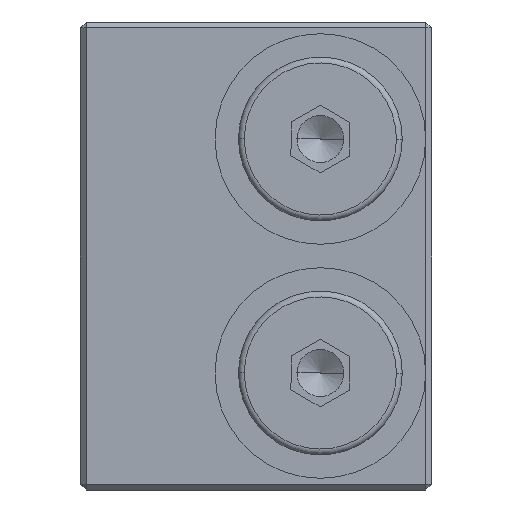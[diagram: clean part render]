
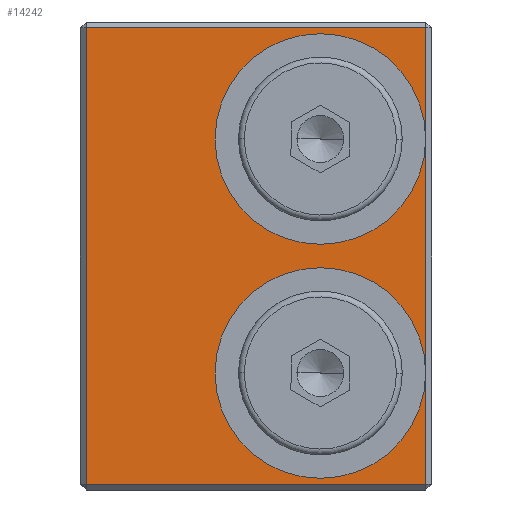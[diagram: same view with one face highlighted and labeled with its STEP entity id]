
A CAD part, left-side view. The second image highlights one B-rep face of the part: STEP entity #14242.
In plain terms, the highlighted planar face has unit normal (-1, 0, 0).
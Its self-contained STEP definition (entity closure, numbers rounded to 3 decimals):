
#136 = CARTESIAN_POINT ( 'NONE',  ( 0., 14.5, -20. ) ) ;
#141 = DIRECTION ( 'NONE',  ( 0., 0., 1. ) ) ;
#190 = EDGE_CURVE ( 'NONE', #6615, #11291, #15655, .T. ) ;
#248 = EDGE_CURVE ( 'NONE', #5211, #3047, #2602, .T. ) ;
#361 = ORIENTED_EDGE ( 'NONE', *, *, #1681, .T. ) ;
#441 = VECTOR ( 'NONE', #8411, 1000. ) ;
#766 = EDGE_LOOP ( 'NONE', ( #3019, #15106, #15193, #12174, #1526, #10283, #4860, #361, #8082, #13542, #15364, #10698 ) ) ;
#907 = DIRECTION ( 'NONE',  ( 0., 1., 0. ) ) ;
#1141 = CARTESIAN_POINT ( 'NONE',  ( 0., -14.5, -19.5 ) ) ;
#1231 = DIRECTION ( 'NONE',  ( 0., 0., 1. ) ) ;
#1496 = VECTOR ( 'NONE', #14580, 1000. ) ;
#1526 = ORIENTED_EDGE ( 'NONE', *, *, #190, .F. ) ;
#1659 = CIRCLE ( 'NONE', #7832, 9. ) ;
#1681 = EDGE_CURVE ( 'NONE', #12000, #14554, #8696, .T. ) ;
#2004 = VECTOR ( 'NONE', #15140, 1000. ) ;
#2234 = CARTESIAN_POINT ( 'NONE',  ( 0., 15., 19.5 ) ) ;
#2323 = CIRCLE ( 'NONE', #15767, 9. ) ;
#2332 = CARTESIAN_POINT ( 'NONE',  ( 0., -15., -19.5 ) ) ;
#2351 = EDGE_CURVE ( 'NONE', #3047, #10838, #6232, .T. ) ;
#2376 = VERTEX_POINT ( 'NONE', #1141 ) ;
#2483 = EDGE_CURVE ( 'NONE', #10838, #6615, #8185, .T. ) ;
#2602 = CIRCLE ( 'NONE', #8772, 9. ) ;
#2625 = CARTESIAN_POINT ( 'NONE',  ( 0., -14.5, 19.5 ) ) ;
#3019 = ORIENTED_EDGE ( 'NONE', *, *, #4492, .F. ) ;
#3047 = VERTEX_POINT ( 'NONE', #7014 ) ;
#3281 = LINE ( 'NONE', #2332, #12908 ) ;
#3817 = EDGE_CURVE ( 'NONE', #5189, #6615, #1659, .T. ) ;
#4391 = EDGE_CURVE ( 'NONE', #11291, #5189, #2323, .T. ) ;
#4492 = EDGE_CURVE ( 'NONE', #10838, #5211, #14859, .T. ) ;
#4548 = DIRECTION ( 'NONE',  ( -1., 0., 0. ) ) ;
#4755 = DIRECTION ( 'NONE',  ( -1., 0., 0. ) ) ;
#4860 = ORIENTED_EDGE ( 'NONE', *, *, #16068, .T. ) ;
#4899 = DIRECTION ( 'NONE',  ( 0., 0., 1. ) ) ;
#5189 = VERTEX_POINT ( 'NONE', #7089 ) ;
#5211 = VERTEX_POINT ( 'NONE', #15906 ) ;
#6053 = CARTESIAN_POINT ( 'NONE',  ( 0., -5.5, 10. ) ) ;
#6167 = CARTESIAN_POINT ( 'NONE',  ( 0., -5.5, -10. ) ) ;
#6232 = CIRCLE ( 'NONE', #10639, 9. ) ;
#6440 = CARTESIAN_POINT ( 'NONE',  ( 0., -14.5, 10. ) ) ;
#6521 = DIRECTION ( 'NONE',  ( -1., 0., 0. ) ) ;
#6615 = VERTEX_POINT ( 'NONE', #6440 ) ;
#7014 = CARTESIAN_POINT ( 'NONE',  ( 0., -5.5, -19. ) ) ;
#7089 = CARTESIAN_POINT ( 'NONE',  ( 0., -5.5, 1. ) ) ;
#7204 = DIRECTION ( 'NONE',  ( 0., 0., 1. ) ) ;
#7481 = LINE ( 'NONE', #2234, #14118 ) ;
#7513 = CARTESIAN_POINT ( 'NONE',  ( 0., 14.5, 19.5 ) ) ;
#7676 = DIRECTION ( 'NONE',  ( -1., 0., 0. ) ) ;
#7817 = EDGE_CURVE ( 'NONE', #14554, #2376, #3281, .T. ) ;
#7832 = AXIS2_PLACEMENT_3D ( 'NONE', #14002, #6521, #15265 ) ;
#8082 = ORIENTED_EDGE ( 'NONE', *, *, #7817, .T. ) ;
#8185 = LINE ( 'NONE', #14692, #1496 ) ;
#8411 = DIRECTION ( 'NONE',  ( 0., 0., 1. ) ) ;
#8696 = LINE ( 'NONE', #136, #2004 ) ;
#8772 = AXIS2_PLACEMENT_3D ( 'NONE', #6167, #11219, #14854 ) ;
#9291 = AXIS2_PLACEMENT_3D ( 'NONE', #15147, #7676, #141 ) ;
#9694 = CARTESIAN_POINT ( 'NONE',  ( 0., -14.5, 20. ) ) ;
#10085 = LINE ( 'NONE', #9694, #441 ) ;
#10283 = ORIENTED_EDGE ( 'NONE', *, *, #12506, .T. ) ;
#10639 = AXIS2_PLACEMENT_3D ( 'NONE', #12913, #12513, #4899 ) ;
#10698 = ORIENTED_EDGE ( 'NONE', *, *, #248, .F. ) ;
#10757 = LINE ( 'NONE', #16270, #13665 ) ;
#10838 = VERTEX_POINT ( 'NONE', #11879 ) ;
#11133 = DIRECTION ( 'NONE',  ( 0., -1., 0. ) ) ;
#11219 = DIRECTION ( 'NONE',  ( -1., 0., 0. ) ) ;
#11291 = VERTEX_POINT ( 'NONE', #13286 ) ;
#11879 = CARTESIAN_POINT ( 'NONE',  ( 0., -14.5, -10. ) ) ;
#12000 = VERTEX_POINT ( 'NONE', #7513 ) ;
#12062 = CARTESIAN_POINT ( 'NONE',  ( 0., 15., -20. ) ) ;
#12174 = ORIENTED_EDGE ( 'NONE', *, *, #4391, .F. ) ;
#12262 = CARTESIAN_POINT ( 'NONE',  ( 0., -5.5, 10. ) ) ;
#12506 = EDGE_CURVE ( 'NONE', #6615, #14012, #10757, .T. ) ;
#12513 = DIRECTION ( 'NONE',  ( -1., 0., 0. ) ) ;
#12908 = VECTOR ( 'NONE', #11133, 1000. ) ;
#12913 = CARTESIAN_POINT ( 'NONE',  ( 0., -5.5, -10. ) ) ;
#13261 = PLANE ( 'NONE',  #16020 ) ;
#13286 = CARTESIAN_POINT ( 'NONE',  ( 0., -5.5, 19. ) ) ;
#13289 = AXIS2_PLACEMENT_3D ( 'NONE', #6053, #13390, #7204 ) ;
#13312 = DIRECTION ( 'NONE',  ( 0., 0., 1. ) ) ;
#13390 = DIRECTION ( 'NONE',  ( -1., 0., 0. ) ) ;
#13515 = DIRECTION ( 'NONE',  ( 0., 0., 1. ) ) ;
#13542 = ORIENTED_EDGE ( 'NONE', *, *, #15547, .T. ) ;
#13665 = VECTOR ( 'NONE', #1231, 1000. ) ;
#14002 = CARTESIAN_POINT ( 'NONE',  ( 0., -5.5, 10. ) ) ;
#14005 = CARTESIAN_POINT ( 'NONE',  ( 0., 14.5, -19.5 ) ) ;
#14012 = VERTEX_POINT ( 'NONE', #2625 ) ;
#14118 = VECTOR ( 'NONE', #907, 1000. ) ;
#14242 = ADVANCED_FACE ( 'NONE', ( #15075 ), #13261, .T. ) ;
#14554 = VERTEX_POINT ( 'NONE', #14005 ) ;
#14580 = DIRECTION ( 'NONE',  ( 0., 0., 1. ) ) ;
#14692 = CARTESIAN_POINT ( 'NONE',  ( 0., -14.5, 20. ) ) ;
#14854 = DIRECTION ( 'NONE',  ( 0., 0., 1. ) ) ;
#14859 = CIRCLE ( 'NONE', #9291, 9. ) ;
#15075 = FACE_OUTER_BOUND ( 'NONE', #766, .T. ) ;
#15106 = ORIENTED_EDGE ( 'NONE', *, *, #2483, .T. ) ;
#15140 = DIRECTION ( 'NONE',  ( 0., 0., -1. ) ) ;
#15147 = CARTESIAN_POINT ( 'NONE',  ( 0., -5.5, -10. ) ) ;
#15193 = ORIENTED_EDGE ( 'NONE', *, *, #3817, .F. ) ;
#15265 = DIRECTION ( 'NONE',  ( 0., 0., 1. ) ) ;
#15364 = ORIENTED_EDGE ( 'NONE', *, *, #2351, .F. ) ;
#15547 = EDGE_CURVE ( 'NONE', #2376, #10838, #10085, .T. ) ;
#15655 = CIRCLE ( 'NONE', #13289, 9. ) ;
#15767 = AXIS2_PLACEMENT_3D ( 'NONE', #12262, #4755, #13515 ) ;
#15906 = CARTESIAN_POINT ( 'NONE',  ( 0., -5.5, -1. ) ) ;
#16020 = AXIS2_PLACEMENT_3D ( 'NONE', #12062, #4548, #13312 ) ;
#16068 = EDGE_CURVE ( 'NONE', #14012, #12000, #7481, .T. ) ;
#16270 = CARTESIAN_POINT ( 'NONE',  ( 0., -14.5, 20. ) ) ;
